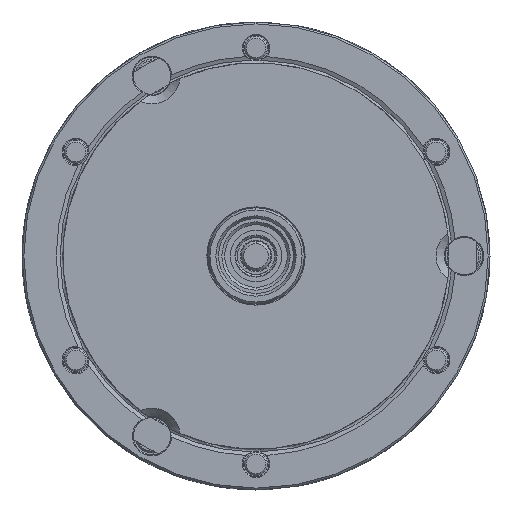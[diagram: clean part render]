
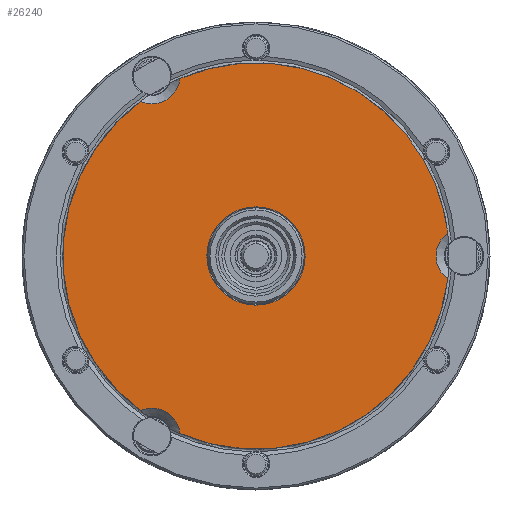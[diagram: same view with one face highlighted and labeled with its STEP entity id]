
A CAD part, left-side view. The second image highlights one B-rep face of the part: STEP entity #26240.
In plain terms, the highlighted planar face has unit normal (-1, 0, 0).
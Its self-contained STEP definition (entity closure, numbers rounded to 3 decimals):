
#17 = CARTESIAN_POINT ( 'NONE',  ( -52.5, 9.093, -5.25 ) ) ;
#91 = AXIS2_PLACEMENT_3D ( 'NONE', #6725, #18578, #48896 ) ;
#1156 = VERTEX_POINT ( 'NONE', #33233 ) ;
#1756 = CARTESIAN_POINT ( 'NONE',  ( -52.5, 0., 0. ) ) ;
#2335 = EDGE_CURVE ( 'NONE', #25991, #50519, #46410, .T. ) ;
#2746 = DIRECTION ( 'NONE',  ( -1., 0., 0. ) ) ;
#4032 = CIRCLE ( 'NONE', #6465, 6. ) ;
#4040 = ORIENTED_EDGE ( 'NONE', *, *, #16832, .F. ) ;
#5116 = CARTESIAN_POINT ( 'NONE',  ( -52.5, 16.251, 37.941 ) ) ;
#5399 = EDGE_CURVE ( 'NONE', #1156, #50519, #32271, .T. ) ;
#6281 = CARTESIAN_POINT ( 'NONE',  ( -52.5, -40.983, 4.897 ) ) ;
#6321 = DIRECTION ( 'NONE',  ( 0., -0.866, 0.5 ) ) ;
#6465 = AXIS2_PLACEMENT_3D ( 'NONE', #21621, #37280, #17791 ) ;
#6725 = CARTESIAN_POINT ( 'NONE',  ( -52.5, 20.637, 35.745 ) ) ;
#7085 = DIRECTION ( 'NONE',  ( 0., -0.866, 0.5 ) ) ;
#7202 = AXIS2_PLACEMENT_3D ( 'NONE', #33591, #48519, #33094 ) ;
#9020 = CIRCLE ( 'NONE', #44305, 41.275 ) ;
#9775 = CARTESIAN_POINT ( 'NONE',  ( -52.5, -35.745, 20.637 ) ) ;
#10681 = DIRECTION ( 'NONE',  ( -1., 0., 0. ) ) ;
#11789 = DIRECTION ( 'NONE',  ( 0., -0.866, 0.5 ) ) ;
#12032 = VERTEX_POINT ( 'NONE', #49350 ) ;
#12604 = CARTESIAN_POINT ( 'NONE',  ( -52.5, 0., 0. ) ) ;
#12629 = EDGE_LOOP ( 'NONE', ( #43355, #16481, #38687, #49528, #29504, #39668, #4040 ) ) ;
#12634 = ORIENTED_EDGE ( 'NONE', *, *, #40969, .F. ) ;
#13380 = CIRCLE ( 'NONE', #42951, 41.275 ) ;
#15621 = CARTESIAN_POINT ( 'NONE',  ( -52.5, 22.225, 38.495 ) ) ;
#16481 = ORIENTED_EDGE ( 'NONE', *, *, #22370, .F. ) ;
#16832 = EDGE_CURVE ( 'NONE', #12032, #18938, #27424, .T. ) ;
#16988 = DIRECTION ( 'NONE',  ( -1., 0., 0. ) ) ;
#17791 = DIRECTION ( 'NONE',  ( 0., 0.866, 0.5 ) ) ;
#17807 = FACE_BOUND ( 'NONE', #44946, .T. ) ;
#18578 = DIRECTION ( 'NONE',  ( 1., 0., 0. ) ) ;
#18938 = VERTEX_POINT ( 'NONE', #5116 ) ;
#19066 = VERTEX_POINT ( 'NONE', #50256 ) ;
#21621 = CARTESIAN_POINT ( 'NONE',  ( -52.5, 22.225, -38.495 ) ) ;
#21737 = CARTESIAN_POINT ( 'NONE',  ( -52.5, 0., 0. ) ) ;
#22055 = DIRECTION ( 'NONE',  ( 0., 0., -1. ) ) ;
#22370 = EDGE_CURVE ( 'NONE', #1156, #19066, #4032, .T. ) ;
#24243 = AXIS2_PLACEMENT_3D ( 'NONE', #42584, #45912, #22055 ) ;
#25315 = VERTEX_POINT ( 'NONE', #9775 ) ;
#25991 = VERTEX_POINT ( 'NONE', #6281 ) ;
#26240 = ADVANCED_FACE ( 'NONE', ( #17807, #30150 ), #33456, .F. ) ;
#27132 = DIRECTION ( 'NONE',  ( -1., 0., 0. ) ) ;
#27424 = CIRCLE ( 'NONE', #38078, 6. ) ;
#29504 = ORIENTED_EDGE ( 'NONE', *, *, #43610, .T. ) ;
#29826 = EDGE_CURVE ( 'NONE', #40685, #44709, #38392, .T. ) ;
#30150 = FACE_OUTER_BOUND ( 'NONE', #12629, .T. ) ;
#31339 = DIRECTION ( 'NONE',  ( -1., 0., 0. ) ) ;
#32271 = CIRCLE ( 'NONE', #42085, 41.275 ) ;
#33094 = DIRECTION ( 'NONE',  ( 0., -0.866, 0.5 ) ) ;
#33233 = CARTESIAN_POINT ( 'NONE',  ( -52.5, 16.251, -37.941 ) ) ;
#33456 = PLANE ( 'NONE',  #91 ) ;
#33591 = CARTESIAN_POINT ( 'NONE',  ( -52.5, 0., 0. ) ) ;
#35976 = DIRECTION ( 'NONE',  ( 0., -0.866, 0.5 ) ) ;
#36710 = AXIS2_PLACEMENT_3D ( 'NONE', #12604, #16988, #35976 ) ;
#36918 = AXIS2_PLACEMENT_3D ( 'NONE', #21737, #10681, #46101 ) ;
#37280 = DIRECTION ( 'NONE',  ( -1., 0., 0. ) ) ;
#38078 = AXIS2_PLACEMENT_3D ( 'NONE', #15621, #2746, #6321 ) ;
#38392 = CIRCLE ( 'NONE', #36710, 10.5 ) ;
#38400 = CIRCLE ( 'NONE', #7202, 10.5 ) ;
#38687 = ORIENTED_EDGE ( 'NONE', *, *, #5399, .T. ) ;
#39048 = CARTESIAN_POINT ( 'NONE',  ( -52.5, 0., 0. ) ) ;
#39668 = ORIENTED_EDGE ( 'NONE', *, *, #49000, .T. ) ;
#40685 = VERTEX_POINT ( 'NONE', #48847 ) ;
#40969 = EDGE_CURVE ( 'NONE', #44709, #40685, #38400, .T. ) ;
#42085 = AXIS2_PLACEMENT_3D ( 'NONE', #1756, #48760, #45125 ) ;
#42584 = CARTESIAN_POINT ( 'NONE',  ( -52.5, -44.45, 0. ) ) ;
#42873 = ORIENTED_EDGE ( 'NONE', *, *, #29826, .F. ) ;
#42951 = AXIS2_PLACEMENT_3D ( 'NONE', #45862, #27132, #7085 ) ;
#43355 = ORIENTED_EDGE ( 'NONE', *, *, #45161, .T. ) ;
#43610 = EDGE_CURVE ( 'NONE', #25991, #25315, #9020, .T. ) ;
#44305 = AXIS2_PLACEMENT_3D ( 'NONE', #39048, #31339, #11789 ) ;
#44709 = VERTEX_POINT ( 'NONE', #17 ) ;
#44946 = EDGE_LOOP ( 'NONE', ( #42873, #12634 ) ) ;
#45125 = DIRECTION ( 'NONE',  ( 0., -0.866, 0.5 ) ) ;
#45161 = EDGE_CURVE ( 'NONE', #12032, #19066, #45212, .T. ) ;
#45212 = CIRCLE ( 'NONE', #36918, 41.275 ) ;
#45862 = CARTESIAN_POINT ( 'NONE',  ( -52.5, 0., 0. ) ) ;
#45912 = DIRECTION ( 'NONE',  ( -1., 0., 0. ) ) ;
#46101 = DIRECTION ( 'NONE',  ( 0., -0.866, 0.5 ) ) ;
#46298 = CARTESIAN_POINT ( 'NONE',  ( -52.5, -40.983, -4.897 ) ) ;
#46410 = CIRCLE ( 'NONE', #24243, 6. ) ;
#48519 = DIRECTION ( 'NONE',  ( -1., 0., 0. ) ) ;
#48760 = DIRECTION ( 'NONE',  ( -1., 0., 0. ) ) ;
#48847 = CARTESIAN_POINT ( 'NONE',  ( -52.5, -9.093, 5.25 ) ) ;
#48896 = DIRECTION ( 'NONE',  ( 0., 0.866, -0.5 ) ) ;
#49000 = EDGE_CURVE ( 'NONE', #25315, #18938, #13380, .T. ) ;
#49350 = CARTESIAN_POINT ( 'NONE',  ( -52.5, 24.733, 33.044 ) ) ;
#49528 = ORIENTED_EDGE ( 'NONE', *, *, #2335, .F. ) ;
#50256 = CARTESIAN_POINT ( 'NONE',  ( -52.5, 24.733, -33.044 ) ) ;
#50519 = VERTEX_POINT ( 'NONE', #46298 ) ;
